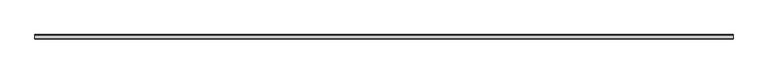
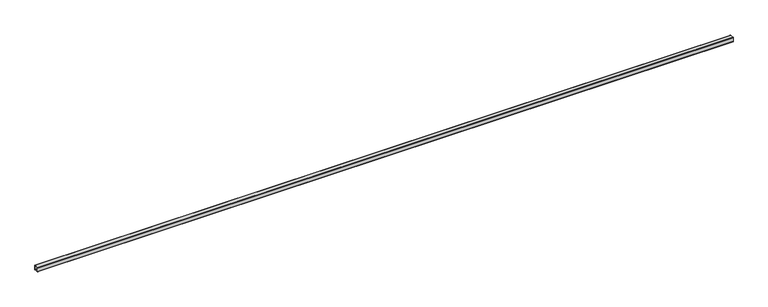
"""IFC4 building model written with IfcOpenShell, lengths in millimetres: beam geometry, Lisse acrot?re 168520 : Lisse acrot?re 168520."""

from ifc_helpers import new_model, si_unit, frame, origin, place, context, project, spatial, polyline, outline, extrude, source, transform, mapped, element, save


def beam_9c2aa71d(model_context):
    return source(origin(), model_context, "Body", "SweptSolid", [
        extrude(outline(polyline([(95.0, 8544.0), (95.0, 8456.0), (94.1961524, 8453.0), (92.0, 8450.8038476), (89.0, 8450.0), (1.0, 8450.0), (-2.0, 8450.8038476), (-4.1961524, 8453.0), (-5.0, 8456.0), (-5.0, 8544.0), (-4.1961524, 8547.0), (-2.0, 8549.1961524), (1.0, 8550.0), (89.0, 8550.0), (92.0, 8549.1961524), (94.1961524, 8547.0), (95.0, 8544.0)]), holes=[polyline([(91.0, 8458.0), (91.0, 8542.0), (90.4641016, 8544.0), (89.0, 8545.4641016), (87.0, 8546.0), (3.0, 8546.0), (1.0, 8545.4641016), (-0.4641016, 8544.0), (-1.0, 8542.0), (-1.0, 8458.0), (-0.4641016, 8456.0), (1.0, 8454.5358984), (3.0, 8454.0), (87.0, 8454.0), (89.0, 8454.5358984), (90.4641016, 8456.0), (91.0, 8458.0)])]), frame((-180.0000001, 0.0, 0.0), z_axis=(1.0, 0.0, 0.0), x_axis=(0.0, 1.0, 0.0)), (0.0, 0.0, 1.0), 15570.0),
    ])


if __name__ == "__main__":
    model = new_model("IFC4")
    model_context = context("Model", 3, world=origin())
    ifc_project = project(units=[si_unit("LENGTHUNIT", "METRE", prefix="MILLI")], contexts=[model_context])
    site = spatial("IfcSite", under=ifc_project)
    building = spatial("IfcBuilding", under=site)
    placement = place(None, origin())
    beam_shape = beam_9c2aa71d(model_context)
    element("IfcBeam", 1, ObjectType="Lisse acrot?re 168520 : Lisse acrot?re 168520", at=placement, inside=building, context=model_context, shape_type="MappedRepresentation", body=[
        mapped(beam_shape, transform((0.0, 0.0, 0.0), x_axis=(1.0, 0.0, 0.0), y_axis=(0.0, 1.0, 0.0), z_axis=(0.0, 0.0, 1.0))),
    ])
    save(model, "model.ifc")
